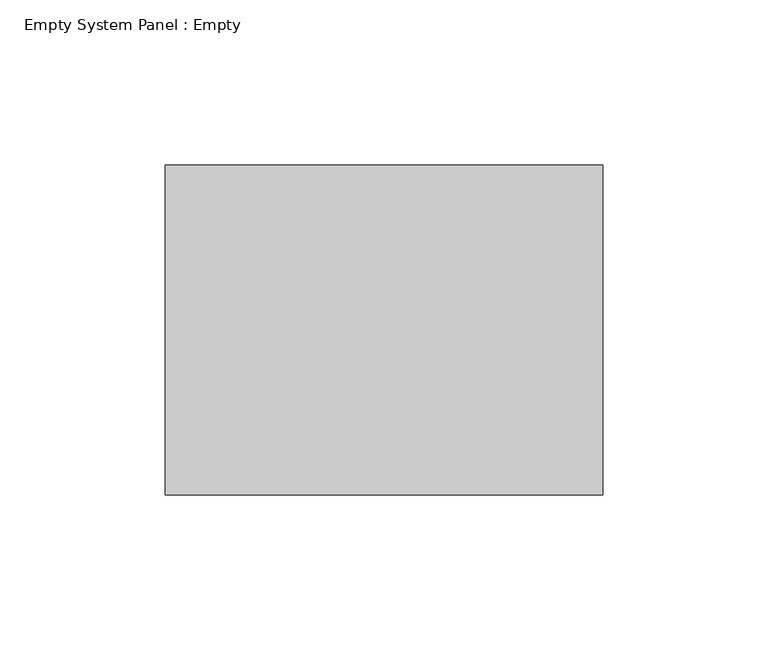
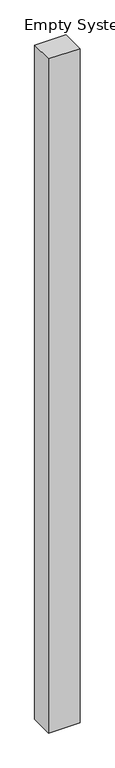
"""IFC4 building model written with IfcOpenShell, lengths in millimetres: plate geometry, Empty System Panel : Empty."""

from ifc_helpers import new_model, si_unit, origin, origin_with_axes, place, context, project, spatial, polyline, outline, extrude, source, transform, mapped, element, save


def empty_system_panel_empty_b0baf43e(model_context):
    return source(origin(), model_context, "Body", "SweptSolid", [
        extrude(outline(polyline([(66.25, -50.0), (-66.25, -50.0), (-66.25, 50.0), (66.25, 50.0), (66.25, -50.0)])), origin_with_axes(), (0.0, 0.0, 1.0), 3000.0),
    ])


if __name__ == "__main__":
    model = new_model("IFC4")
    model_context = context("Model", 3, world=origin())
    ifc_project = project(units=[si_unit("LENGTHUNIT", "METRE", prefix="MILLI")], contexts=[model_context])
    site = spatial("IfcSite", under=ifc_project)
    building = spatial("IfcBuilding", under=site)
    placement = place(None, origin())
    empty_system_panel_empty_shape = empty_system_panel_empty_b0baf43e(model_context)
    element("IfcPlate", 1, ObjectType="Empty System Panel : Empty", at=placement, inside=building, context=model_context, shape_type="MappedRepresentation", body=[
        mapped(empty_system_panel_empty_shape, transform((0.0, 0.0, 0.0), x_axis=(1.0, 0.0, 0.0), y_axis=(0.0, 1.0, 0.0), z_axis=(0.0, 0.0, 1.0))),
    ])
    save(model, "model.ifc")
